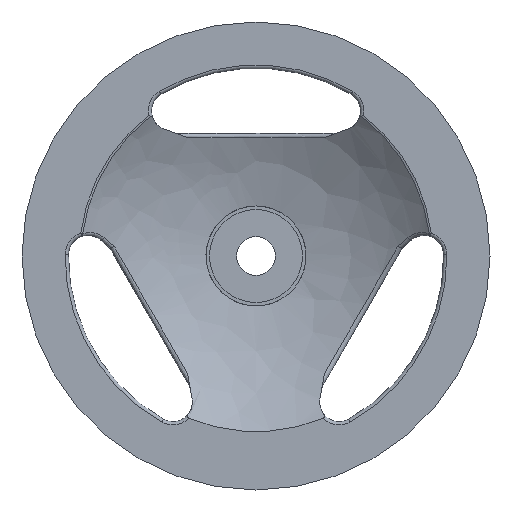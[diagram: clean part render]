
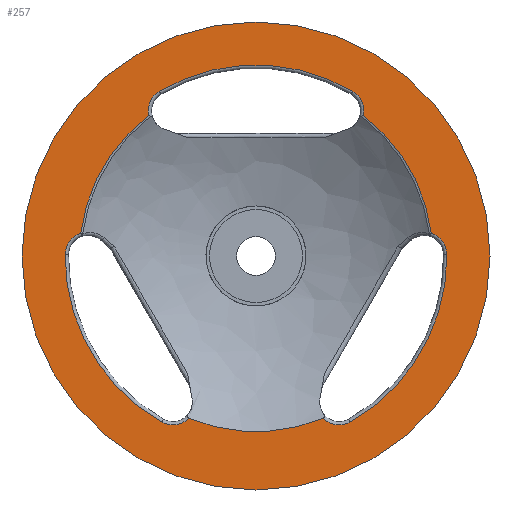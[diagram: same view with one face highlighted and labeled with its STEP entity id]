
A CAD part, left-side view. The second image highlights one B-rep face of the part: STEP entity #257.
In plain terms, the highlighted planar face has unit normal (-1, 0, 0).
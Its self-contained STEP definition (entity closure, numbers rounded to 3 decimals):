
#257 = ADVANCED_FACE( '', ( #626, #627 ), #628, .T. );
#626 = FACE_OUTER_BOUND( '', #1801, .T. );
#627 = FACE_BOUND( '', #1802, .T. );
#628 = PLANE( '', #1803 );
#1801 = EDGE_LOOP( '', ( #5587 ) );
#1802 = EDGE_LOOP( '', ( #5588, #5589, #5590, #5591, #5592, #5593, #5594, #5595, #5596, #5597, #5598, #5599 ) );
#1803 = AXIS2_PLACEMENT_3D( '', #5600, #5601, #5602 );
#5587 = ORIENTED_EDGE( '', *, *, #6637, .T. );
#5588 = ORIENTED_EDGE( '', *, *, #6530, .T. );
#5589 = ORIENTED_EDGE( '', *, *, #6681, .T. );
#5590 = ORIENTED_EDGE( '', *, *, #6682, .F. );
#5591 = ORIENTED_EDGE( '', *, *, #6683, .T. );
#5592 = ORIENTED_EDGE( '', *, *, #6647, .T. );
#5593 = ORIENTED_EDGE( '', *, *, #6651, .T. );
#5594 = ORIENTED_EDGE( '', *, *, #6684, .T. );
#5595 = ORIENTED_EDGE( '', *, *, #6685, .T. );
#5596 = ORIENTED_EDGE( '', *, *, #6686, .T. );
#5597 = ORIENTED_EDGE( '', *, *, #6687, .T. );
#5598 = ORIENTED_EDGE( '', *, *, #6571, .T. );
#5599 = ORIENTED_EDGE( '', *, *, #6688, .T. );
#5600 = CARTESIAN_POINT( '', ( -42.389, 0., 54.422 ) );
#5601 = DIRECTION( '', ( -1., 0., 0. ) );
#5602 = DIRECTION( '', ( 0., 0., 1. ) );
#6530 = EDGE_CURVE( '', #7080, #7085, #7087, .F. );
#6571 = EDGE_CURVE( '', #7148, #7153, #7155, .F. );
#6637 = EDGE_CURVE( '', #7264, #7264, #7265, .T. );
#6647 = EDGE_CURVE( '', #7276, #7280, #7282, .F. );
#6651 = EDGE_CURVE( '', #7280, #7286, #7288, .F. );
#6681 = EDGE_CURVE( '', #7085, #7334, #7335, .F. );
#6682 = EDGE_CURVE( '', #7336, #7334, #7337, .T. );
#6683 = EDGE_CURVE( '', #7336, #7276, #7338, .F. );
#6684 = EDGE_CURVE( '', #7286, #7339, #7340, .F. );
#6685 = EDGE_CURVE( '', #7339, #7341, #7342, .F. );
#6686 = EDGE_CURVE( '', #7341, #7343, #7344, .F. );
#6687 = EDGE_CURVE( '', #7343, #7148, #7345, .F. );
#6688 = EDGE_CURVE( '', #7153, #7080, #7346, .F. );
#7080 = VERTEX_POINT( '', #8036 );
#7085 = VERTEX_POINT( '', #8041 );
#7087 = CIRCLE( '', #8043, 58.841 );
#7148 = VERTEX_POINT( '', #8345 );
#7153 = VERTEX_POINT( '', #8355 );
#7155 = CIRCLE( '', #8357, 54.778 );
#7264 = VERTEX_POINT( '', #8930 );
#7265 = CIRCLE( '', #8931, 72.5 );
#7276 = VERTEX_POINT( '', #8993 );
#7280 = VERTEX_POINT( '', #8997 );
#7282 = CIRCLE( '', #8999, 58.841 );
#7286 = VERTEX_POINT( '', #9003 );
#7288 = CIRCLE( '', #9005, 7. );
#7334 = VERTEX_POINT( '', #9148 );
#7335 = CIRCLE( '', #9149, 7. );
#7336 = VERTEX_POINT( '', #9150 );
#7337 = CIRCLE( '', #9151, 54.422 );
#7338 = CIRCLE( '', #9152, 7. );
#7339 = VERTEX_POINT( '', #9153 );
#7340 = CIRCLE( '', #9154, 54.778 );
#7341 = VERTEX_POINT( '', #9155 );
#7342 = CIRCLE( '', #9156, 7. );
#7343 = VERTEX_POINT( '', #9157 );
#7344 = CIRCLE( '', #9158, 58.841 );
#7345 = CIRCLE( '', #9159, 7. );
#7346 = CIRCLE( '', #9160, 7. );
#8036 = CARTESIAN_POINT( '', ( -42.389, -59.12, 0.453 ) );
#8041 = CARTESIAN_POINT( '', ( -42.389, -29.168, -51.428 ) );
#8043 = AXIS2_PLACEMENT_3D( '', #11808, #11809, #11810 );
#8345 = CARTESIAN_POINT( '', ( -42.389, -33.247, 43.535 ) );
#8355 = CARTESIAN_POINT( '', ( -42.389, -54.326, 7.023 ) );
#8357 = AXIS2_PLACEMENT_3D( '', #11855, #11856, #11857 );
#8930 = CARTESIAN_POINT( '', ( -42.389, 0., 72.5 ) );
#8931 = AXIS2_PLACEMENT_3D( '', #11914, #11915, #11916 );
#8993 = CARTESIAN_POINT( '', ( -42.389, 29.168, -51.426 ) );
#8997 = CARTESIAN_POINT( '', ( -42.389, 59.122, 0.454 ) );
#8999 = AXIS2_PLACEMENT_3D( '', #11929, #11930, #11931 );
#9003 = CARTESIAN_POINT( '', ( -42.389, 54.326, 7.025 ) );
#9005 = AXIS2_PLACEMENT_3D( '', #11938, #11939, #11940 );
#9148 = CARTESIAN_POINT( '', ( -42.389, -20.794, -50.292 ) );
#9149 = AXIS2_PLACEMENT_3D( '', #11973, #11974, #11975 );
#9150 = CARTESIAN_POINT( '', ( -42.389, 20.796, -50.291 ) );
#9151 = AXIS2_PLACEMENT_3D( '', #11976, #11977, #11978 );
#9152 = AXIS2_PLACEMENT_3D( '', #11979, #11980, #11981 );
#9153 = CARTESIAN_POINT( '', ( -42.389, 33.245, 43.536 ) );
#9154 = AXIS2_PLACEMENT_3D( '', #11982, #11983, #11984 );
#9155 = CARTESIAN_POINT( '', ( -42.389, 29.952, 50.973 ) );
#9156 = AXIS2_PLACEMENT_3D( '', #11985, #11986, #11987 );
#9157 = CARTESIAN_POINT( '', ( -42.389, -29.954, 50.974 ) );
#9158 = AXIS2_PLACEMENT_3D( '', #11988, #11989, #11990 );
#9159 = AXIS2_PLACEMENT_3D( '', #11991, #11992, #11993 );
#9160 = AXIS2_PLACEMENT_3D( '', #11994, #11995, #11996 );
#11808 = CARTESIAN_POINT( '', ( -42.389, -0.282, -0.164 ) );
#11809 = DIRECTION( '', ( -1., 0., 0. ) );
#11810 = DIRECTION( '', ( 0., 0., 1. ) );
#11855 = CARTESIAN_POINT( '', ( -42.389, 0., 0. ) );
#11856 = DIRECTION( '', ( -1., 0., 0. ) );
#11857 = DIRECTION( '', ( 0., 0., 1. ) );
#11914 = CARTESIAN_POINT( '', ( -42.389, 0., 0. ) );
#11915 = DIRECTION( '', ( -1., 0., 0. ) );
#11916 = DIRECTION( '', ( 0., 0., 1. ) );
#11929 = CARTESIAN_POINT( '', ( -42.389, 0.284, -0.162 ) );
#11930 = DIRECTION( '', ( -1., 0., 0. ) );
#11931 = DIRECTION( '', ( 0., 0., 1. ) );
#11938 = CARTESIAN_POINT( '', ( -42.389, 52.122, 0.381 ) );
#11939 = DIRECTION( '', ( -1., 0., 0. ) );
#11940 = DIRECTION( '', ( 0., 0., 1. ) );
#11973 = CARTESIAN_POINT( '', ( -42.389, -25.731, -45.329 ) );
#11974 = DIRECTION( '', ( -1., 0., 0. ) );
#11975 = DIRECTION( '', ( 0., 0., 1. ) );
#11976 = CARTESIAN_POINT( '', ( -42.389, 0., 0. ) );
#11977 = DIRECTION( '', ( -1., 0., 0. ) );
#11978 = DIRECTION( '', ( 0., 0., 1. ) );
#11979 = CARTESIAN_POINT( '', ( -42.389, 25.732, -45.328 ) );
#11980 = DIRECTION( '', ( -1., 0., 0. ) );
#11981 = DIRECTION( '', ( 0., 0., 1. ) );
#11982 = CARTESIAN_POINT( '', ( -42.389, 0., 0. ) );
#11983 = DIRECTION( '', ( -1., 0., 0. ) );
#11984 = DIRECTION( '', ( 0., 0., 1. ) );
#11985 = CARTESIAN_POINT( '', ( -42.389, 26.389, 44.948 ) );
#11986 = DIRECTION( '', ( -1., 0., 0. ) );
#11987 = DIRECTION( '', ( 0., 0., 1. ) );
#11988 = CARTESIAN_POINT( '', ( -42.389, -0.001, 0.327 ) );
#11989 = DIRECTION( '', ( -1., 0., 0. ) );
#11990 = DIRECTION( '', ( 0., 0., 1. ) );
#11991 = CARTESIAN_POINT( '', ( -42.389, -26.391, 44.949 ) );
#11992 = DIRECTION( '', ( -1., 0., 0. ) );
#11993 = DIRECTION( '', ( 0., 0., 1. ) );
#11994 = CARTESIAN_POINT( '', ( -42.389, -52.121, 0.379 ) );
#11995 = DIRECTION( '', ( -1., 0., 0. ) );
#11996 = DIRECTION( '', ( 0., 0., 1. ) );
